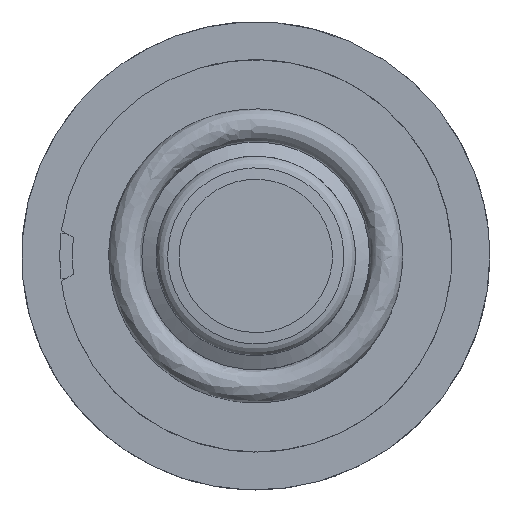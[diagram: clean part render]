
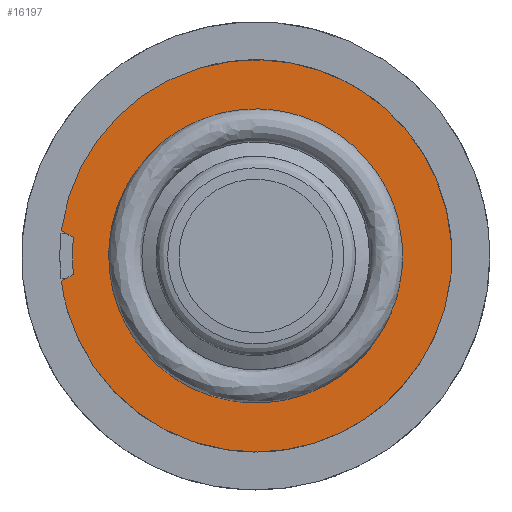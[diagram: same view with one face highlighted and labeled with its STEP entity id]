
A CAD part, front view. The second image highlights one B-rep face of the part: STEP entity #16197.
In plain terms, the highlighted free-form (B-spline) face has degree [1, 1] with [2, 2] control points.
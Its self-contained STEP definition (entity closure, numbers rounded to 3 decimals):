
#16007=CARTESIAN_POINT('V47',(-15.37,-5.0,2.0));
#16008=VERTEX_POINT('V47',#16007);
#16014=CARTESIAN_POINT('V48',(-15.37,-5.0,-2.0));
#16015=VERTEX_POINT('V48',#16014);
#16016=CARTESIAN_POINT('E64',(-15.37,-5.,
   2.));
#16017=CARTESIAN_POINT('E64',(-12.372,-5.,
   25.041));
#16018=CARTESIAN_POINT('E64',(7.75,-5.,
   13.423));
#16019=CARTESIAN_POINT('E64',(31.,-5.,
   0.));
#16020=CARTESIAN_POINT('E64',(7.75,-5.,
   -13.423));
#16021=CARTESIAN_POINT('E64',(-12.372,-5.,
   -25.041));
#16022=CARTESIAN_POINT('E64',(-15.37,-5.,
   -2.));
#16030=(BOUNDED_CURVE()B_SPLINE_CURVE(2,(#16016,#16017,#16018,
   #16019,#16020,#16021,#16022),.CIRCULAR_ARC.,.F.,.U.)
   B_SPLINE_CURVE_WITH_KNOTS((3,2,2,3),(0.024,
   0.333,0.667,0.976),
   .UNSPECIFIED.)CURVE()GEOMETRIC_REPRESENTATION_ITEM()
   RATIONAL_B_SPLINE_CURVE((0.933,0.536,
   1.0,0.5,1.0,0.536,0.933))
   REPRESENTATION_ITEM('E64'));
#16031=EDGE_CURVE('E64',#16008,#16015,#16030,.T.);
#16057=CARTESIAN_POINT('V743',(-14.427,-5.0,
   -1.455));
#16058=VERTEX_POINT('V743',#16057);
#16066=CARTESIAN_POINT('V741',(-14.427,-5.0,
   1.455));
#16067=VERTEX_POINT('V741',#16066);
#16068=CARTESIAN_POINT('E1152',(-14.427,-5.0,
   1.455));
#16069=CARTESIAN_POINT('E1152',(-14.574,-5.0,
   0.));
#16070=CARTESIAN_POINT('E1152',(-14.427,-5.0,
   -1.455));
#16078=(BOUNDED_CURVE()B_SPLINE_CURVE(2,(#16068,#16069,#16070),
   .CIRCULAR_ARC.,.F.,.U.)CURVE()GEOMETRIC_REPRESENTATION_ITEM()
   QUASI_UNIFORM_CURVE()RATIONAL_B_SPLINE_CURVE((1.0,
   0.995,1.0))REPRESENTATION_ITEM('E1152'));
#16079=EDGE_CURVE('E1152',#16067,#16058,#16078,.T.);
#16110=CARTESIAN_POINT('E1149',(-15.37,-5.0,2.0));
#16111=CARTESIAN_POINT('E1149',(-14.427,-5.0,
   1.455));
#16112=QUASI_UNIFORM_CURVE('E1149',1,(#16110,#16111),.POLYLINE_FORM.,
   .F.,.U.);
#16113=EDGE_CURVE('E1149',#16008,#16067,#16112,.T.);
#16155=CARTESIAN_POINT('E1155',(-14.427,-5.0,
   -1.455));
#16156=CARTESIAN_POINT('E1155',(-15.37,-5.0,-2.0));
#16157=QUASI_UNIFORM_CURVE('E1155',1,(#16155,#16156),.POLYLINE_FORM.,
   .F.,.U.);
#16158=EDGE_CURVE('E1155',#16058,#16015,#16157,.T.);
#16165=CARTESIAN_POINT('F433',(17.05,-5.,
   -17.05));
#16166=CARTESIAN_POINT('F433',(17.05,-5.,
   17.05));
#16167=CARTESIAN_POINT('F433',(-17.05,
   -5.,-17.05));
#16168=CARTESIAN_POINT('F433',(-17.05,
   -5.,17.05));
#16169=QUASI_UNIFORM_SURFACE('F433',1,1,((#16165,#16167),(#16166,
   #16168)),.PLANE_SURF.,.F.,.F.,.U.);
#16170=ORIENTED_EDGE('E1155',*,*,#16158,.T.);
#16171=ORIENTED_EDGE('E64',*,*,#16031,.F.);
#16172=ORIENTED_EDGE('E1149',*,*,#16113,.T.);
#16173=ORIENTED_EDGE('E1152',*,*,#16079,.T.);
#16174=EDGE_LOOP('F433',(#16170,#16171,#16172,#16173));
#16175=FACE_OUTER_BOUND('F433',#16174,.T.);
#16176=CARTESIAN_POINT('V745',(10.31,-5.,
   0.0));
#16177=VERTEX_POINT('V745',#16176);
#16178=CARTESIAN_POINT('E1162',(10.31,
   -5.,0.0));
#16179=CARTESIAN_POINT('E1162',(10.31,
   -5.,-17.857));
#16180=CARTESIAN_POINT('E1162',(-5.155,
   -5.,-8.929));
#16181=CARTESIAN_POINT('E1162',(-20.62,
   -5.,0.));
#16182=CARTESIAN_POINT('E1162',(-5.155,
   -5.,8.929));
#16183=CARTESIAN_POINT('E1162',(10.31,
   -5.,17.857));
#16184=CARTESIAN_POINT('E1162',(10.31,
   -5.,0.0));
#16192=(BOUNDED_CURVE()B_SPLINE_CURVE(2,(#16178,#16179,#16180,
   #16181,#16182,#16183,#16184),.CIRCULAR_ARC.,.T.,.U.)
   B_SPLINE_CURVE_WITH_KNOTS((3,2,2,3),(0.0,2.623,
   5.247,7.87),.UNSPECIFIED.)CURVE()
   GEOMETRIC_REPRESENTATION_ITEM()RATIONAL_B_SPLINE_CURVE((1.0,
   0.5,1.0,0.5,1.0,0.5,1.0)
   )REPRESENTATION_ITEM('E1162'));
#16193=EDGE_CURVE('E1162',#16177,#16177,#16192,.T.);
#16194=ORIENTED_EDGE('E1162',*,*,#16193,.T.);
#16195=EDGE_LOOP('F433',(#16194));
#16196=FACE_BOUND('F433',#16195,.T.);
#16197=ADVANCED_FACE('F433',(#16175,#16196),#16169,.T.);
